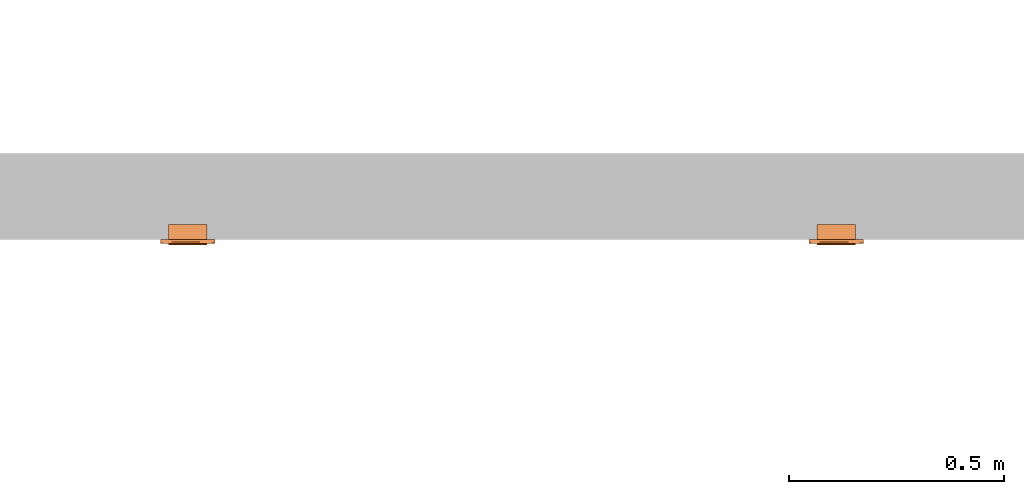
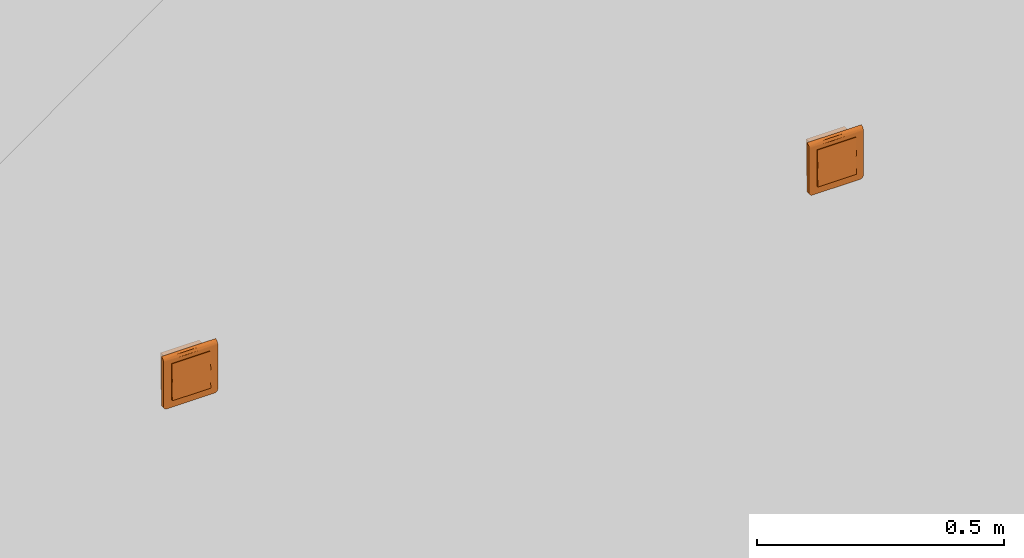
# One storey, part 182 of 197: 2 proxies.
"""IFC2X3 building model written with IfcOpenShell, lengths in metres."""

from ifc_helpers import new_model, entity, si_unit, converted_unit, direction, frame, origin, place, context, subcontext, project, spatial, faceted_brep, source, transform, mapped, material, material_list, type_object, type_shapes, element, save


model = new_model("IFC2X3")

# Units and contexts
model_context = context("Model", 3, precision=1e-05, world=origin(), true_north=direction((6.123031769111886e-17, 1.0)))
body_context = subcontext(model_context, "Body", "Model", "MODEL_VIEW")
ifc_project = project(units=[si_unit("LENGTHUNIT", "METRE"), converted_unit("PLANEANGLEUNIT", "DEGREE", entity("IfcPlaneAngleMeasure", 0.017453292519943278), si_unit("PLANEANGLEUNIT", "RADIAN"), dimensions=[0, 0, 0, 0, 0, 0, 0]), si_unit("AREAUNIT", "SQUARE_METRE")], contexts=[model_context])

# Site, building, storey
site_placement = place(None, origin())
site = spatial("IfcSite", under=ifc_project, at=site_placement, Name="Default", CompositionType="ELEMENT")
building_placement = place(site_placement, origin())
building = spatial("IfcBuilding", under=site, at=building_placement, CompositionType="ELEMENT")
storey_placement = place(building_placement, origin())
storey = spatial("IfcBuildingStorey", under=building, at=storey_placement, Name="Niveau 0", CompositionType="ELEMENT", Elevation=0.0)

# Proxies
ifc_material_1 = material(Name="<Unnamed>")
ifc_material_2 = material(Name="BETCE-DOIGT-BLANC")
ifc_material_3 = material(Name="BETCE-ENJOLIVEUR-BLANC")
ifc_material_list = material_list([ifc_material_1, ifc_material_2, ifc_material_3])
building_element_proxy_type_1 = type_object("IfcBuildingElementProxyType", Name="Tableau commande 2x4 modules encastré:3 SA + 5 VV", PredefinedType="NOTDEFINED", material=ifc_material_list)
shared_shape_1 = source(origin(), body_context, "Body", "Brep", [
    faceted_brep([(0.04499999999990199, 0.0, 0.0), (0.04499999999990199, 0.03499999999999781, 0.0), (0.022499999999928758, 0.03499999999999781, 0.0), (0.022499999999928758, 0.0, 0.0), (0.04499999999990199, 0.0, -0.045000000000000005), (0.022499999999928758, 0.0, -0.045000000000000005), (0.022499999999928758, 0.03499999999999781, -0.045000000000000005), (0.04499999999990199, 0.03499999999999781, -0.045000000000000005)], [[[0, 1, 2, 3]], [[4, 5, 6, 7]], [[1, 0, 4, 7]], [[2, 1, 7, 6]], [[3, 2, 6, 5]], [[0, 3, 5, 4]]]),
    faceted_brep([(0.04499999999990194, 0.0, 0.045000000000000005), (0.04499999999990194, 0.03499999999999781, 0.045000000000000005), (0.022499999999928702, 0.03499999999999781, 0.045000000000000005), (0.022499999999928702, 0.0, 0.045000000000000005), (0.04499999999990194, 0.0, 0.0), (0.022499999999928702, 0.0, 0.0), (0.022499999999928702, 0.03499999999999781, 0.0), (0.04499999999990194, 0.03499999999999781, 0.0)], [[[0, 1, 2, 3]], [[4, 5, 6, 7]], [[1, 0, 4, 7]], [[2, 1, 7, 6]], [[3, 2, 6, 5]], [[0, 3, 5, 4]]]),
    faceted_brep([(0.022499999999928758, 0.0, 0.0), (0.022499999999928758, 0.03499999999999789, 0.0), (0.0, 0.03499999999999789, 0.0), (0.0, 0.0, 0.0), (0.022499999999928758, 0.0, -0.045000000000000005), (0.0, 0.0, -0.045000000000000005), (0.0, 0.03499999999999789, -0.045000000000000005), (0.022499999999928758, 0.03499999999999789, -0.045000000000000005)], [[[0, 1, 2, 3]], [[4, 5, 6, 7]], [[1, 0, 4, 7]], [[2, 1, 7, 6]], [[3, 2, 6, 5]], [[0, 3, 5, 4]]]),
    faceted_brep([(0.0224999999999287, 0.0, 0.045000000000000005), (0.0224999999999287, 0.03499999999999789, 0.045000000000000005), (0.0, 0.03499999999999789, 0.045000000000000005), (0.0, 0.0, 0.045000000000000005), (0.0224999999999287, 0.0, 0.0), (0.0, 0.0, 0.0), (0.0, 0.03499999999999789, 0.0), (0.0224999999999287, 0.03499999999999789, 0.0)], [[[0, 1, 2, 3]], [[4, 5, 6, 7]], [[1, 0, 4, 7]], [[2, 1, 7, 6]], [[3, 2, 6, 5]], [[0, 3, 5, 4]]]),
    faceted_brep([(0.0, 0.0, 0.0), (0.0, 0.034999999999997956, 0.0), (-0.022500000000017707, 0.034999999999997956, 0.0), (-0.022500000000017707, 0.0, 0.0), (0.0, 0.0, -0.045000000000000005), (-0.022500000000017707, 0.0, -0.045000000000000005), (-0.022500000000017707, 0.034999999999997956, -0.045000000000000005), (0.0, 0.034999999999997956, -0.045000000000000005)], [[[0, 1, 2, 3]], [[4, 5, 6, 7]], [[1, 0, 4, 7]], [[2, 1, 7, 6]], [[3, 2, 6, 5]], [[0, 3, 5, 4]]]),
    faceted_brep([(0.0, 0.0, 0.045000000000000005), (0.0, 0.034999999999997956, 0.045000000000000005), (-0.022500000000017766, 0.034999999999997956, 0.045000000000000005), (-0.022500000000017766, 0.0, 0.045000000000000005), (0.0, 0.0, 0.0), (-0.022500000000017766, 0.0, 0.0), (-0.022500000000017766, 0.034999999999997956, 0.0), (0.0, 0.034999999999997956, 0.0)], [[[0, 1, 2, 3]], [[4, 5, 6, 7]], [[1, 0, 4, 7]], [[2, 1, 7, 6]], [[3, 2, 6, 5]], [[0, 3, 5, 4]]]),
    faceted_brep([(-0.02250000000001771, 0.0, 0.0), (-0.02250000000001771, 0.034999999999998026, 0.0), (-0.044999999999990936, 0.034999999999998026, 0.0), (-0.044999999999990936, 0.0, 0.0), (-0.02250000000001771, 0.0, -0.045000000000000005), (-0.044999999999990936, 0.0, -0.045000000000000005), (-0.044999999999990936, 0.034999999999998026, -0.045000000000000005), (-0.02250000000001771, 0.034999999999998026, -0.045000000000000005)], [[[0, 1, 2, 3]], [[4, 5, 6, 7]], [[1, 0, 4, 7]], [[2, 1, 7, 6]], [[3, 2, 6, 5]], [[0, 3, 5, 4]]]),
    faceted_brep([(-0.022500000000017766, 0.0, 0.045000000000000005), (-0.022500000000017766, 0.034999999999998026, 0.045000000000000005), (-0.044999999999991, 0.034999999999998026, 0.045000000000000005), (-0.044999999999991, 0.0, 0.045000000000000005), (-0.022500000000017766, 0.0, 0.0), (-0.044999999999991, 0.0, 0.0), (-0.044999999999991, 0.034999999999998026, 0.0), (-0.022500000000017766, 0.034999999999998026, 0.0)], [[[0, 1, 2, 3]], [[4, 5, 6, 7]], [[1, 0, 4, 7]], [[2, 1, 7, 6]], [[3, 2, 6, 5]], [[0, 3, 5, 4]]]),
    faceted_brep([(0.022499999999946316, 0.0, -0.045000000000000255), (0.022499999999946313, 0.0, 0.0), (0.04499999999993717, 0.0, 0.0), (0.04499999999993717, 0.0, -0.045000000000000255), (0.022499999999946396, -0.012750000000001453, -0.045000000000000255), (0.022499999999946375, -0.010500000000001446, 0.0), (0.044999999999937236, -0.010500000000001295, 0.0), (0.04499999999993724, -0.012750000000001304, -0.045000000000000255)], [[[0, 1, 2, 3]], [[1, 0, 4, 5]], [[2, 1, 5, 6]], [[3, 2, 6, 7]], [[0, 3, 7, 4]], [[5, 4, 7, 6]]]),
    faceted_brep([(0.0, 0.0, -0.04500000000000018), (0.0, 0.0, 0.0), (0.022499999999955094, 0.0, 0.0), (0.022499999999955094, 0.0, -0.04500000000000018), (0.0, -0.012750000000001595, -0.04500000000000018), (0.0, -0.010500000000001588, 0.0), (0.022499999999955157, -0.01050000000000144, 0.0), (0.022499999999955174, -0.012750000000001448, -0.04500000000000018)], [[[0, 1, 2, 3]], [[1, 0, 4, 5]], [[2, 1, 5, 6]], [[3, 2, 6, 7]], [[0, 3, 7, 4]], [[5, 4, 7, 6]]]),
    faceted_brep([(-0.022500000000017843, 0.0, -0.0450000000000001), (-0.022500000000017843, 0.0, 0.0), (0.0, 0.0, 0.0), (0.0, 0.0, -0.0450000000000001), (-0.02250000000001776, -0.012750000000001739, -0.0450000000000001), (-0.022500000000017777, -0.010500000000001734, 0.0), (0.0, -0.010500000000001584, 0.0), (0.0, -0.012750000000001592, -0.0450000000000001)], [[[0, 1, 2, 3]], [[1, 0, 4, 5]], [[2, 1, 5, 6]], [[3, 2, 6, 7]], [[0, 3, 7, 4]], [[5, 4, 7, 6]]]),
    faceted_brep([(-0.04499999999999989, 0.0, -0.045000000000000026), (-0.04499999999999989, 0.0, 0.0), (-0.022500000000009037, 0.0, 0.0), (-0.022500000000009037, 0.0, -0.045000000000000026), (-0.04499999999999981, -0.012750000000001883, -0.045000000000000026), (-0.04499999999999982, -0.010500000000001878, 0.0), (-0.022500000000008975, -0.01050000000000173, 0.0), (-0.022500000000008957, -0.012750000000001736, -0.045000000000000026)], [[[0, 1, 2, 3]], [[1, 0, 4, 5]], [[2, 1, 5, 6]], [[3, 2, 6, 7]], [[0, 3, 7, 4]], [[5, 4, 7, 6]]]),
    faceted_brep([(0.02249999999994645, -0.010500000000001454, 0.04499999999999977), (0.022499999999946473, -0.012750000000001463, 0.0), (0.04499999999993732, -0.012750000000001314, 0.0), (0.044999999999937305, -0.010500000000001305, 0.04499999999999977), (0.022499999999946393, 0.0, 0.0), (0.02249999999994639, 0.0, 0.04499999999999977), (0.04499999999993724, 0.0, 0.04499999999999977), (0.04499999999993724, 0.0, 0.0)], [[[0, 1, 2, 3]], [[4, 5, 6, 7]], [[5, 4, 1, 0]], [[6, 5, 0, 3]], [[7, 6, 3, 2]], [[4, 7, 2, 1]]]),
    faceted_brep([(0.0, -0.010500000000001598, 0.044999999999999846), (0.0, -0.012750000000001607, 0.0), (0.02249999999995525, -0.012750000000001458, 0.0), (0.022499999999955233, -0.010500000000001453, 0.044999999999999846), (0.0, 0.0, 0.0), (0.0, 0.0, 0.044999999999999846), (0.02249999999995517, 0.0, 0.04499999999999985), (0.02249999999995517, 0.0, 0.0)], [[[0, 1, 2, 3]], [[4, 5, 6, 7]], [[5, 4, 1, 0]], [[6, 5, 0, 3]], [[7, 6, 3, 2]], [[4, 7, 2, 1]]]),
    faceted_brep([(-0.0225000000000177, -0.010500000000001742, 0.04499999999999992), (-0.022500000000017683, -0.01275000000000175, 0.0), (0.0, -0.012750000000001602, 0.0), (0.0, -0.010500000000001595, 0.04499999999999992), (-0.022500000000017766, 0.0, 0.0), (-0.022500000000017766, 0.0, 0.04499999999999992), (0.0, 0.0, 0.04499999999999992), (0.0, 0.0, 0.0)], [[[0, 1, 2, 3]], [[4, 5, 6, 7]], [[5, 4, 1, 0]], [[6, 5, 0, 3]], [[7, 6, 3, 2]], [[4, 7, 2, 1]]]),
    faceted_brep([(-0.044999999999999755, -0.010500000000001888, 0.045), (-0.044999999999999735, -0.012750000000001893, 0.0), (-0.02250000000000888, -0.012750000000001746, 0.0), (-0.0225000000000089, -0.010500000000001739, 0.045), (-0.04499999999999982, 0.0, 0.0), (-0.04499999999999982, 0.0, 0.045), (-0.022500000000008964, 0.0, 0.045000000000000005), (-0.022500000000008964, 0.0, 0.0)], [[[0, 1, 2, 3]], [[4, 5, 6, 7]], [[5, 4, 1, 0]], [[6, 5, 0, 3]], [[7, 6, 3, 2]], [[4, 7, 2, 1]]]),
    faceted_brep([(0.06350000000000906, -0.009000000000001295, -0.055500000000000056), (0.06350000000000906, -0.009000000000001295, 0.05450000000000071), (0.045000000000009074, -0.00900000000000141, -0.045000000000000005), (0.055500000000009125, -0.009000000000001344, -0.06350000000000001), (0.057570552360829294, -0.009000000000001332, -0.06322740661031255), (0.06322740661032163, -0.009000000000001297, -0.05757055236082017), (0.04500000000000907, -0.00900000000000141, 0.045), (-0.044999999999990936, -0.00900000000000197, 0.045000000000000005), (-0.01112442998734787, -0.009000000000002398, 0.054500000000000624), (-0.06349999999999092, -0.009000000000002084, 0.05450000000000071), (-0.044999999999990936, -0.00900000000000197, -0.045000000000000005), (-0.06349999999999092, -0.009000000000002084, -0.05550000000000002), (-0.055499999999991, -0.009000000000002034, -0.06350000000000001), (-0.0575705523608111, -0.009000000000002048, -0.06322740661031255), (-0.06322740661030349, -0.009000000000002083, -0.05757055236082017), (-0.05949999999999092, -0.00900000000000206, -0.062428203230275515), (-0.062428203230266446, -0.009000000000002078, -0.05950000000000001), (-0.06115685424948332, -0.00900000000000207, -0.06115685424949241), (0.059500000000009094, -0.00900000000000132, -0.062428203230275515), (0.062428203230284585, -0.009000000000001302, -0.05949999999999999), (0.06115685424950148, -0.009000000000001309, -0.061156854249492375), (-0.063499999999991, 0.0, -0.05550000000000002), (-0.063499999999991, 0.0, 0.06350000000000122), (-0.044999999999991, 0.0, 0.045000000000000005), (-0.044999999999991, 0.0, -0.045000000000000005), (-0.055499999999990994, 0.0, -0.06350000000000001), (-0.06322740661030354, 0.0, -0.05757055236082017), (0.045000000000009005, 0.0, 0.045000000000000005), (0.011124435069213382, 0.0, 0.06350000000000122), (0.06350000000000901, 0.0, 0.0635), (0.06350000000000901, 0.0, -0.05550000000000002), (0.045000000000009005, 0.0, -0.045000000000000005), (0.05550000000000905, 0.0, -0.06350000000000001), (0.06322740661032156, 0.0, -0.05757055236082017), (0.057570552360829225, 0.0, -0.06322740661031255), (0.06242820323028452, 0.0, -0.05949999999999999), (0.05950000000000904, 0.0, -0.062428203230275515), (0.06115685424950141, 0.0, -0.061156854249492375), (-0.05757055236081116, 0.0, -0.06322740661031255), (-0.0624282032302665, 0.0, -0.05950000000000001), (-0.059499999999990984, 0.0, -0.062428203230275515), (-0.06115685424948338, 0.0, -0.06115685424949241), (0.06350000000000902, -0.00232937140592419, 0.06319333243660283), (0.06350000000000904, -0.004500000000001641, 0.06229422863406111), (0.06350000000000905, -0.006363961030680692, 0.06086396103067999), (0.06350000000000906, -0.007794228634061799, 0.05900000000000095), (0.06350000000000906, -0.008693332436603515, 0.056829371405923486), (-0.06349999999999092, -0.00869333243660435, 0.0568293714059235), (-0.06349999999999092, -0.007794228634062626, 0.059000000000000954), (-0.06349999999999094, -0.006363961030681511, 0.06086396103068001), (-0.06349999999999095, -0.004500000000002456, 0.062294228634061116), (-0.06349999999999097, -0.002329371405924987, 0.06319333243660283), (-0.010857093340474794, -0.006120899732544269, 0.06109807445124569)], [[[0, 1, 2]], [[3, 0, 2]], [[0, 3, 4]], [[5, 0, 4]], [[2, 1, 6]], [[1, 7, 6]], [[7, 1, 8]], [[7, 8, 9]], [[10, 7, 9]], [[11, 10, 9]], [[12, 10, 11]], [[12, 11, 13]], [[13, 11, 14]], [[15, 13, 14]], [[16, 15, 14]], [[15, 16, 17]], [[10, 12, 3]], [[2, 10, 3]], [[5, 4, 18]], [[5, 18, 19]], [[20, 19, 18]], [[21, 22, 23]], [[24, 21, 23]], [[25, 21, 24]], [[26, 21, 25]], [[22, 27, 23]], [[27, 22, 28]], [[27, 28, 29]], [[30, 27, 29]], [[31, 27, 30]], [[32, 31, 30]], [[32, 30, 33]], [[32, 33, 34]], [[33, 35, 34]], [[35, 36, 34]], [[36, 35, 37]], [[31, 32, 25]], [[26, 25, 38]], [[24, 31, 25]], [[39, 26, 38]], [[39, 38, 40]], [[41, 39, 40]], [[1, 0, 30, 29, 42, 43, 44, 45, 46]], [[33, 30, 0, 5]], [[35, 33, 5, 19]], [[37, 35, 19, 20]], [[36, 37, 20, 18]], [[34, 36, 18, 4]], [[32, 34, 4, 3]], [[25, 32, 3, 12]], [[38, 25, 12, 13]], [[40, 38, 13, 15]], [[41, 40, 15, 17]], [[39, 41, 17, 16]], [[26, 39, 16, 14]], [[21, 26, 14, 11]], [[22, 21, 11, 9, 47, 48, 49, 50, 51]], [[24, 23, 7, 10]], [[31, 24, 10, 2]], [[27, 31, 2, 6]], [[23, 27, 6, 7]], [[52, 8, 45]], [[47, 9, 8]], [[1, 46, 8]], [[44, 52, 45]], [[46, 45, 8]], [[50, 52, 51]], [[48, 47, 8]], [[28, 52, 43]], [[48, 52, 49]], [[42, 29, 28]], [[28, 22, 51]], [[48, 8, 52]], [[28, 43, 42]], [[44, 43, 52]], [[52, 50, 49]], [[52, 28, 51]]]),
])
type_shapes(building_element_proxy_type_1, [shared_shape_1])
proxy_1_placement = place(storey_placement, frame((-342.41977966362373, 122.781355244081, 1.1)))
element("IfcBuildingElementProxy", 1, at=proxy_1_placement, inside=storey, type_object=building_element_proxy_type_1, material=ifc_material_list, Name="Tableau commande 2x4 modules encastré:3 SA + 5 VV", ObjectType="Tableau commande 2x4 modules encastré:3 SA + 5 VV", context=body_context, shape_type="MappedRepresentation", body=[
    mapped(shared_shape_1, transform((0.0, 0.0, 0.0), scale=1.0)),
])
building_element_proxy_type_2 = type_object("IfcBuildingElementProxyType", Name="Tableau commande 2x4 modules encastré:4 SA + 4 VV", PredefinedType="NOTDEFINED", material=ifc_material_list)
shared_shape_2 = source(origin(), body_context, "Body", "Brep", [
    faceted_brep([(0.04499999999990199, 0.0, 0.0), (0.04499999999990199, 0.03499999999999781, 0.0), (0.022499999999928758, 0.03499999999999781, 0.0), (0.022499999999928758, 0.0, 0.0), (0.04499999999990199, 0.0, -0.045000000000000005), (0.022499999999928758, 0.0, -0.045000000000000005), (0.022499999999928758, 0.03499999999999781, -0.045000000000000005), (0.04499999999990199, 0.03499999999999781, -0.045000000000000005)], [[[0, 1, 2, 3]], [[4, 5, 6, 7]], [[1, 0, 4, 7]], [[2, 1, 7, 6]], [[3, 2, 6, 5]], [[0, 3, 5, 4]]]),
    faceted_brep([(0.04499999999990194, 0.0, 0.045000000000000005), (0.04499999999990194, 0.03499999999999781, 0.045000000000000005), (0.022499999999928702, 0.03499999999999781, 0.045000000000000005), (0.022499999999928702, 0.0, 0.045000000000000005), (0.04499999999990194, 0.0, 0.0), (0.022499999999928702, 0.0, 0.0), (0.022499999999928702, 0.03499999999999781, 0.0), (0.04499999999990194, 0.03499999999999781, 0.0)], [[[0, 1, 2, 3]], [[4, 5, 6, 7]], [[1, 0, 4, 7]], [[2, 1, 7, 6]], [[3, 2, 6, 5]], [[0, 3, 5, 4]]]),
    faceted_brep([(0.022499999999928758, 0.0, 0.0), (0.022499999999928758, 0.03499999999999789, 0.0), (0.0, 0.03499999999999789, 0.0), (0.0, 0.0, 0.0), (0.022499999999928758, 0.0, -0.045000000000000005), (0.0, 0.0, -0.045000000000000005), (0.0, 0.03499999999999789, -0.045000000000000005), (0.022499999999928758, 0.03499999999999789, -0.045000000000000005)], [[[0, 1, 2, 3]], [[4, 5, 6, 7]], [[1, 0, 4, 7]], [[2, 1, 7, 6]], [[3, 2, 6, 5]], [[0, 3, 5, 4]]]),
    faceted_brep([(0.0224999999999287, 0.0, 0.045000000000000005), (0.0224999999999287, 0.03499999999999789, 0.045000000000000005), (0.0, 0.03499999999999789, 0.045000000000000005), (0.0, 0.0, 0.045000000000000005), (0.0224999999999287, 0.0, 0.0), (0.0, 0.0, 0.0), (0.0, 0.03499999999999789, 0.0), (0.0224999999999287, 0.03499999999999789, 0.0)], [[[0, 1, 2, 3]], [[4, 5, 6, 7]], [[1, 0, 4, 7]], [[2, 1, 7, 6]], [[3, 2, 6, 5]], [[0, 3, 5, 4]]]),
    faceted_brep([(0.0, 0.0, 0.0), (0.0, 0.034999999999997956, 0.0), (-0.022500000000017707, 0.034999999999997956, 0.0), (-0.022500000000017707, 0.0, 0.0), (0.0, 0.0, -0.045000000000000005), (-0.022500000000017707, 0.0, -0.045000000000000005), (-0.022500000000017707, 0.034999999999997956, -0.045000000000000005), (0.0, 0.034999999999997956, -0.045000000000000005)], [[[0, 1, 2, 3]], [[4, 5, 6, 7]], [[1, 0, 4, 7]], [[2, 1, 7, 6]], [[3, 2, 6, 5]], [[0, 3, 5, 4]]]),
    faceted_brep([(0.0, 0.0, 0.045000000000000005), (0.0, 0.034999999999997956, 0.045000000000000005), (-0.022500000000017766, 0.034999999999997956, 0.045000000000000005), (-0.022500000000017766, 0.0, 0.045000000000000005), (0.0, 0.0, 0.0), (-0.022500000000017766, 0.0, 0.0), (-0.022500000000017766, 0.034999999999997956, 0.0), (0.0, 0.034999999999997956, 0.0)], [[[0, 1, 2, 3]], [[4, 5, 6, 7]], [[1, 0, 4, 7]], [[2, 1, 7, 6]], [[3, 2, 6, 5]], [[0, 3, 5, 4]]]),
    faceted_brep([(-0.02250000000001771, 0.0, 0.0), (-0.02250000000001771, 0.034999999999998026, 0.0), (-0.044999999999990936, 0.034999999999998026, 0.0), (-0.044999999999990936, 0.0, 0.0), (-0.02250000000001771, 0.0, -0.045000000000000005), (-0.044999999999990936, 0.0, -0.045000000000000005), (-0.044999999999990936, 0.034999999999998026, -0.045000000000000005), (-0.02250000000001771, 0.034999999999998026, -0.045000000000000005)], [[[0, 1, 2, 3]], [[4, 5, 6, 7]], [[1, 0, 4, 7]], [[2, 1, 7, 6]], [[3, 2, 6, 5]], [[0, 3, 5, 4]]]),
    faceted_brep([(-0.022500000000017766, 0.0, 0.045000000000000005), (-0.022500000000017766, 0.034999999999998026, 0.045000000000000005), (-0.044999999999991, 0.034999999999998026, 0.045000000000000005), (-0.044999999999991, 0.0, 0.045000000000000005), (-0.022500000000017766, 0.0, 0.0), (-0.044999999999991, 0.0, 0.0), (-0.044999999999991, 0.034999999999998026, 0.0), (-0.022500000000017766, 0.034999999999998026, 0.0)], [[[0, 1, 2, 3]], [[4, 5, 6, 7]], [[1, 0, 4, 7]], [[2, 1, 7, 6]], [[3, 2, 6, 5]], [[0, 3, 5, 4]]]),
    faceted_brep([(0.022499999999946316, 0.0, -0.045000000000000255), (0.022499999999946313, 0.0, 0.0), (0.04499999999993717, 0.0, 0.0), (0.04499999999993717, 0.0, -0.045000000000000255), (0.022499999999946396, -0.012750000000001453, -0.045000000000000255), (0.022499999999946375, -0.010500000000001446, 0.0), (0.044999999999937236, -0.010500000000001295, 0.0), (0.04499999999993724, -0.012750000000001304, -0.045000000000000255)], [[[0, 1, 2, 3]], [[1, 0, 4, 5]], [[2, 1, 5, 6]], [[3, 2, 6, 7]], [[0, 3, 7, 4]], [[5, 4, 7, 6]]]),
    faceted_brep([(0.0, 0.0, -0.04500000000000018), (0.0, 0.0, 0.0), (0.022499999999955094, 0.0, 0.0), (0.022499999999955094, 0.0, -0.04500000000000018), (0.0, -0.012750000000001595, -0.04500000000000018), (0.0, -0.010500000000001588, 0.0), (0.022499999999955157, -0.01050000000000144, 0.0), (0.022499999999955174, -0.012750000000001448, -0.04500000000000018)], [[[0, 1, 2, 3]], [[1, 0, 4, 5]], [[2, 1, 5, 6]], [[3, 2, 6, 7]], [[0, 3, 7, 4]], [[5, 4, 7, 6]]]),
    faceted_brep([(-0.022500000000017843, 0.0, -0.0450000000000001), (-0.022500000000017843, 0.0, 0.0), (0.0, 0.0, 0.0), (0.0, 0.0, -0.0450000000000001), (-0.02250000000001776, -0.012750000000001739, -0.0450000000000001), (-0.022500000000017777, -0.010500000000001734, 0.0), (0.0, -0.010500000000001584, 0.0), (0.0, -0.012750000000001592, -0.0450000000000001)], [[[0, 1, 2, 3]], [[1, 0, 4, 5]], [[2, 1, 5, 6]], [[3, 2, 6, 7]], [[0, 3, 7, 4]], [[5, 4, 7, 6]]]),
    faceted_brep([(-0.04499999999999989, 0.0, -0.045000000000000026), (-0.04499999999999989, 0.0, 0.0), (-0.022500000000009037, 0.0, 0.0), (-0.022500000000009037, 0.0, -0.045000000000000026), (-0.04499999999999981, -0.012750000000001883, -0.045000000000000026), (-0.04499999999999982, -0.010500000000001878, 0.0), (-0.022500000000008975, -0.01050000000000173, 0.0), (-0.022500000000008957, -0.012750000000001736, -0.045000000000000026)], [[[0, 1, 2, 3]], [[1, 0, 4, 5]], [[2, 1, 5, 6]], [[3, 2, 6, 7]], [[0, 3, 7, 4]], [[5, 4, 7, 6]]]),
    faceted_brep([(0.02249999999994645, -0.010500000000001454, 0.04499999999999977), (0.022499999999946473, -0.012750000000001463, 0.0), (0.04499999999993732, -0.012750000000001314, 0.0), (0.044999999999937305, -0.010500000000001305, 0.04499999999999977), (0.022499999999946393, 0.0, 0.0), (0.02249999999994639, 0.0, 0.04499999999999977), (0.04499999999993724, 0.0, 0.04499999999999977), (0.04499999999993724, 0.0, 0.0)], [[[0, 1, 2, 3]], [[4, 5, 6, 7]], [[5, 4, 1, 0]], [[6, 5, 0, 3]], [[7, 6, 3, 2]], [[4, 7, 2, 1]]]),
    faceted_brep([(0.0, -0.010500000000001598, 0.044999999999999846), (0.0, -0.012750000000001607, 0.0), (0.02249999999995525, -0.012750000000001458, 0.0), (0.022499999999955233, -0.010500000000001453, 0.044999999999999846), (0.0, 0.0, 0.0), (0.0, 0.0, 0.044999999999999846), (0.02249999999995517, 0.0, 0.04499999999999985), (0.02249999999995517, 0.0, 0.0)], [[[0, 1, 2, 3]], [[4, 5, 6, 7]], [[5, 4, 1, 0]], [[6, 5, 0, 3]], [[7, 6, 3, 2]], [[4, 7, 2, 1]]]),
    faceted_brep([(-0.0225000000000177, -0.010500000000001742, 0.04499999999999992), (-0.022500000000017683, -0.01275000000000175, 0.0), (0.0, -0.012750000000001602, 0.0), (0.0, -0.010500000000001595, 0.04499999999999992), (-0.022500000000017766, 0.0, 0.0), (-0.022500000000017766, 0.0, 0.04499999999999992), (0.0, 0.0, 0.04499999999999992), (0.0, 0.0, 0.0)], [[[0, 1, 2, 3]], [[4, 5, 6, 7]], [[5, 4, 1, 0]], [[6, 5, 0, 3]], [[7, 6, 3, 2]], [[4, 7, 2, 1]]]),
    faceted_brep([(-0.044999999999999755, -0.010500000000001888, 0.045), (-0.044999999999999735, -0.012750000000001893, 0.0), (-0.02250000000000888, -0.012750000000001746, 0.0), (-0.0225000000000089, -0.010500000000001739, 0.045), (-0.04499999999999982, 0.0, 0.0), (-0.04499999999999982, 0.0, 0.045), (-0.022500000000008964, 0.0, 0.045000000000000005), (-0.022500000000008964, 0.0, 0.0)], [[[0, 1, 2, 3]], [[4, 5, 6, 7]], [[5, 4, 1, 0]], [[6, 5, 0, 3]], [[7, 6, 3, 2]], [[4, 7, 2, 1]]]),
    faceted_brep([(0.06350000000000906, -0.009000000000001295, -0.055500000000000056), (0.06350000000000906, -0.009000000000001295, 0.05450000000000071), (0.045000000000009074, -0.00900000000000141, -0.045000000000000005), (0.055500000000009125, -0.009000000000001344, -0.06350000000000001), (0.057570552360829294, -0.009000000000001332, -0.06322740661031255), (0.06322740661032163, -0.009000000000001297, -0.05757055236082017), (0.04500000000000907, -0.00900000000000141, 0.045), (-0.044999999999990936, -0.00900000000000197, 0.045000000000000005), (-0.01112442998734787, -0.009000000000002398, 0.054500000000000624), (-0.06349999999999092, -0.009000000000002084, 0.05450000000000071), (-0.044999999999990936, -0.00900000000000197, -0.045000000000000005), (-0.06349999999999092, -0.009000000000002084, -0.05550000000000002), (-0.055499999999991, -0.009000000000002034, -0.06350000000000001), (-0.0575705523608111, -0.009000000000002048, -0.06322740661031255), (-0.06322740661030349, -0.009000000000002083, -0.05757055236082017), (-0.05949999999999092, -0.00900000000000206, -0.062428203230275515), (-0.062428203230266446, -0.009000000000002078, -0.05950000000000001), (-0.06115685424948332, -0.00900000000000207, -0.06115685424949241), (0.059500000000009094, -0.00900000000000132, -0.062428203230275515), (0.062428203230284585, -0.009000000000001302, -0.05949999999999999), (0.06115685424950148, -0.009000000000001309, -0.061156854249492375), (-0.063499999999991, 0.0, -0.05550000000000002), (-0.063499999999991, 0.0, 0.06350000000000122), (-0.044999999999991, 0.0, 0.045000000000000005), (-0.044999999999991, 0.0, -0.045000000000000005), (-0.055499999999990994, 0.0, -0.06350000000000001), (-0.06322740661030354, 0.0, -0.05757055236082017), (0.045000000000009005, 0.0, 0.045000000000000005), (0.011124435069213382, 0.0, 0.06350000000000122), (0.06350000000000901, 0.0, 0.0635), (0.06350000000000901, 0.0, -0.05550000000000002), (0.045000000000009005, 0.0, -0.045000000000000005), (0.05550000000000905, 0.0, -0.06350000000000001), (0.06322740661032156, 0.0, -0.05757055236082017), (0.057570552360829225, 0.0, -0.06322740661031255), (0.06242820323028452, 0.0, -0.05949999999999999), (0.05950000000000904, 0.0, -0.062428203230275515), (0.06115685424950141, 0.0, -0.061156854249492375), (-0.05757055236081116, 0.0, -0.06322740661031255), (-0.0624282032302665, 0.0, -0.05950000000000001), (-0.059499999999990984, 0.0, -0.062428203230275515), (-0.06115685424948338, 0.0, -0.06115685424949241), (0.06350000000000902, -0.00232937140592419, 0.06319333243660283), (0.06350000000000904, -0.004500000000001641, 0.06229422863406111), (0.06350000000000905, -0.006363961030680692, 0.06086396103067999), (0.06350000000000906, -0.007794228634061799, 0.05900000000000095), (0.06350000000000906, -0.008693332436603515, 0.056829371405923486), (-0.06349999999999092, -0.00869333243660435, 0.0568293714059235), (-0.06349999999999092, -0.007794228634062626, 0.059000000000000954), (-0.06349999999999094, -0.006363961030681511, 0.06086396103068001), (-0.06349999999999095, -0.004500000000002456, 0.062294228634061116), (-0.06349999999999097, -0.002329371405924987, 0.06319333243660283), (-0.010857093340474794, -0.006120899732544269, 0.06109807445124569)], [[[0, 1, 2]], [[3, 0, 2]], [[0, 3, 4]], [[5, 0, 4]], [[2, 1, 6]], [[1, 7, 6]], [[7, 1, 8]], [[7, 8, 9]], [[10, 7, 9]], [[11, 10, 9]], [[12, 10, 11]], [[12, 11, 13]], [[13, 11, 14]], [[15, 13, 14]], [[16, 15, 14]], [[15, 16, 17]], [[10, 12, 3]], [[2, 10, 3]], [[5, 4, 18]], [[5, 18, 19]], [[20, 19, 18]], [[21, 22, 23]], [[24, 21, 23]], [[25, 21, 24]], [[26, 21, 25]], [[22, 27, 23]], [[27, 22, 28]], [[27, 28, 29]], [[30, 27, 29]], [[31, 27, 30]], [[32, 31, 30]], [[32, 30, 33]], [[32, 33, 34]], [[33, 35, 34]], [[35, 36, 34]], [[36, 35, 37]], [[31, 32, 25]], [[26, 25, 38]], [[24, 31, 25]], [[39, 26, 38]], [[39, 38, 40]], [[41, 39, 40]], [[1, 0, 30, 29, 42, 43, 44, 45, 46]], [[33, 30, 0, 5]], [[35, 33, 5, 19]], [[37, 35, 19, 20]], [[36, 37, 20, 18]], [[34, 36, 18, 4]], [[32, 34, 4, 3]], [[25, 32, 3, 12]], [[38, 25, 12, 13]], [[40, 38, 13, 15]], [[41, 40, 15, 17]], [[39, 41, 17, 16]], [[26, 39, 16, 14]], [[21, 26, 14, 11]], [[22, 21, 11, 9, 47, 48, 49, 50, 51]], [[24, 23, 7, 10]], [[31, 24, 10, 2]], [[27, 31, 2, 6]], [[23, 27, 6, 7]], [[52, 8, 45]], [[47, 9, 8]], [[1, 46, 8]], [[44, 52, 45]], [[46, 45, 8]], [[50, 52, 51]], [[48, 47, 8]], [[28, 52, 43]], [[48, 52, 49]], [[42, 29, 28]], [[28, 22, 51]], [[48, 8, 52]], [[28, 43, 42]], [[44, 43, 52]], [[52, 50, 49]], [[52, 28, 51]]]),
])
type_shapes(building_element_proxy_type_2, [shared_shape_2])
proxy_2_placement = place(storey_placement, frame((-340.91002034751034, 122.781355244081, 1.1)))
element("IfcBuildingElementProxy", 2, at=proxy_2_placement, inside=storey, type_object=building_element_proxy_type_2, material=ifc_material_list, Name="Tableau commande 2x4 modules encastré:4 SA + 4 VV", ObjectType="Tableau commande 2x4 modules encastré:4 SA + 4 VV", context=body_context, shape_type="MappedRepresentation", body=[
    mapped(shared_shape_2, transform((0.0, 0.0, 0.0), scale=1.0)),
])

save(model, "model.ifc")
